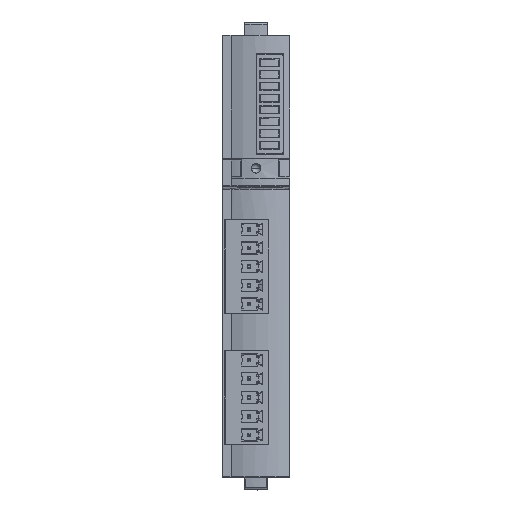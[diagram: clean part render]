
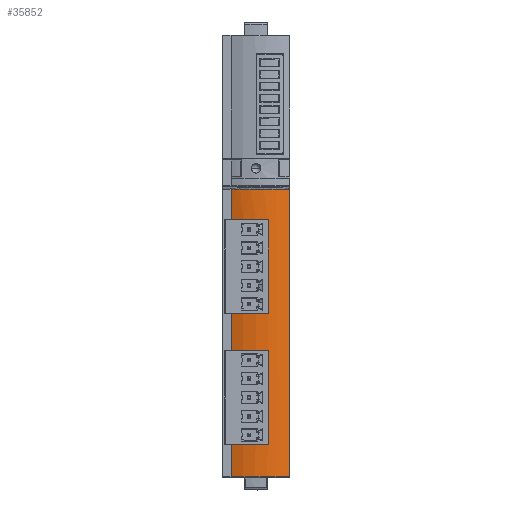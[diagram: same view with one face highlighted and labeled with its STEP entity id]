
A CAD part, top view. The second image highlights one B-rep face of the part: STEP entity #35852.
In plain terms, the highlighted cylindrical face has radius 21.03 mm (diameter 42.06 mm), a partial arc.
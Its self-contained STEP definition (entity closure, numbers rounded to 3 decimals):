
#4720=CARTESIAN_POINT('',(3.303,-68.513,53.684));
#4721=CARTESIAN_POINT('',(1.592,-68.511,53.865));
#4722=CARTESIAN_POINT('',(-1.772,-68.512,
53.801));
#4723=CARTESIAN_POINT('',(-5.03,-68.519,
52.96));
#4724=CARTESIAN_POINT('',(-6.63,-68.525,
52.328));
#4740=CARTESIAN_POINT('',(-6.63,-68.525,
52.328));
#4742=DIRECTION('',(0.,-1.,0.));
#4743=VECTOR('',#4742,8.775);
#4744=CARTESIAN_POINT('',(-6.63,-68.525,
52.328));
#4745=LINE('',#4744,#4743);
#4770=DIRECTION('',(0.,1.,0.));
#4771=VECTOR('',#4770,10.071);
#4772=CARTESIAN_POINT('',(-6.63,-43.095,
52.328));
#4773=LINE('',#4772,#4771);
#4802=DIRECTION('',(0.,-1.,0.));
#4803=VECTOR('',#4802,77.985);
#4804=CARTESIAN_POINT('',(9.076,0.685,52.229));
#4805=LINE('',#4804,#4803);
#4810=CARTESIAN_POINT('',(3.303,-33.013,53.684));
#4811=CARTESIAN_POINT('',(1.592,-33.011,53.865));
#4812=CARTESIAN_POINT('',(-1.772,-33.012,
53.801));
#4813=CARTESIAN_POINT('',(-5.03,-33.019,
52.96));
#4814=CARTESIAN_POINT('',(-6.63,-33.025,
52.328));
#4820=CARTESIAN_POINT('',(-6.63,-7.595,
52.328));
#4821=CARTESIAN_POINT('',(-5.03,-7.601,
52.96));
#4822=CARTESIAN_POINT('',(-1.772,-7.608,
53.801));
#4823=CARTESIAN_POINT('',(1.592,-7.609,53.865));
#4824=CARTESIAN_POINT('',(3.303,-7.607,53.684));
#4834=DIRECTION('',(0.,1.,0.));
#4835=VECTOR('',#4834,8.231);
#4836=CARTESIAN_POINT('',(-6.63,-7.595,
52.328));
#4837=LINE('',#4836,#4835);
#4901=CARTESIAN_POINT('',(8.817,0.635,52.333));
#4902=CARTESIAN_POINT('',(8.549,0.638,52.439));
#4903=CARTESIAN_POINT('',(7.962,0.644,52.658));
#4904=CARTESIAN_POINT('',(6.908,0.653,52.993));
#4905=CARTESIAN_POINT('',(5.719,0.661,53.3));
#4906=CARTESIAN_POINT('',(4.419,0.668,53.551));
#4907=CARTESIAN_POINT('',(3.04,0.673,53.726));
#4908=CARTESIAN_POINT('',(1.617,0.675,53.81));
#4909=CARTESIAN_POINT('',(0.186,0.675,
53.796));
#4910=CARTESIAN_POINT('',(-1.217,0.672,
53.687));
#4911=CARTESIAN_POINT('',(-2.557,0.667,
53.494));
#4912=CARTESIAN_POINT('',(-3.8,0.66,
53.233));
#4913=CARTESIAN_POINT('',(-4.915,0.651,
52.931));
#4914=CARTESIAN_POINT('',(-5.881,0.643,
52.615));
#4915=CARTESIAN_POINT('',(-6.399,0.638,
52.419));
#4916=CARTESIAN_POINT('',(-6.63,0.635,
52.328));
#17700=CARTESIAN_POINT('',(1.1,-77.3,32.77));
#17701=DIRECTION('',(0.,-1.,0.));
#17702=DIRECTION('',(0.379,0.,0.925));
#17703=AXIS2_PLACEMENT_3D('',#17700,#17701,#17702);
#17731=CARTESIAN_POINT('',(-6.63,-77.3,52.328));
#17925=CARTESIAN_POINT('',(9.076,0.685,
52.229));
#17951=CARTESIAN_POINT('',(9.076,0.685,
52.229));
#17952=CARTESIAN_POINT('',(9.034,0.668,
52.246));
#17953=CARTESIAN_POINT('',(8.95,0.643,
52.28));
#17954=CARTESIAN_POINT('',(8.862,0.635,
52.315));
#17955=CARTESIAN_POINT('',(8.817,0.635,
52.333));
#18136=DIRECTION('',(0.,-1.,0.));
#18137=VECTOR('',#18136,25.406);
#18138=CARTESIAN_POINT('',(3.303,-7.607,
53.684));
#18139=LINE('',#18138,#18137);
#19920=DIRECTION('',(0.,-1.,0.));
#19921=VECTOR('',#19920,25.406);
#19922=CARTESIAN_POINT('',(3.303,-43.107,
53.684));
#19923=LINE('',#19922,#19921);
#19928=CARTESIAN_POINT('',(-6.63,-43.095,
52.328));
#19929=CARTESIAN_POINT('',(-5.03,-43.101,
52.96));
#19930=CARTESIAN_POINT('',(-1.772,-43.108,
53.801));
#19931=CARTESIAN_POINT('',(1.592,-43.109,
53.865));
#19932=CARTESIAN_POINT('',(3.303,-43.107,
53.684));
#23761=CARTESIAN_POINT('',(3.303,-43.107,
53.684));
#23762=CARTESIAN_POINT('',(3.303,-68.513,
53.684));
#23763=VERTEX_POINT('',#23761);
#23764=VERTEX_POINT('',#23762);
#23766=CARTESIAN_POINT('',(3.303,-7.607,
53.684));
#23768=VERTEX_POINT('',#23766);
#23770=CARTESIAN_POINT('',(3.303,-33.013,
53.684));
#23772=VERTEX_POINT('',#23770);
#24628=CARTESIAN_POINT('',(-6.63,-43.095,
52.328));
#24629=CARTESIAN_POINT('',(-6.63,-33.025,
52.328));
#24630=VERTEX_POINT('',#24628);
#24631=VERTEX_POINT('',#24629);
#24636=CARTESIAN_POINT('',(-6.63,-7.595,
52.328));
#24637=CARTESIAN_POINT('',(-6.63,0.635,
52.328));
#24638=VERTEX_POINT('',#24636);
#24639=VERTEX_POINT('',#24637);
#24646=VERTEX_POINT('',#17731);
#24650=VERTEX_POINT('',#4740);
#24651=CARTESIAN_POINT('',(9.076,-77.3,52.229));
#24652=VERTEX_POINT('',#24651);
#26904=VERTEX_POINT('',#17925);
#26906=VERTEX_POINT('',#17955);
#35822=CARTESIAN_POINT('',(1.1,-77.5,32.77));
#35823=DIRECTION('',(0.,-1.,0.));
#35824=DIRECTION('',(1.,0.,0.));
#35825=AXIS2_PLACEMENT_3D('',#35822,#35823,#35824);
#35826=CYLINDRICAL_SURFACE('',#35825,21.03);
#35827=ORIENTED_EDGE('',*,*,#35808,.T.);
#35829=ORIENTED_EDGE('',*,*,#35828,.F.);
#35831=ORIENTED_EDGE('',*,*,#35830,.F.);
#35833=ORIENTED_EDGE('',*,*,#35832,.F.);
#35835=ORIENTED_EDGE('',*,*,#35834,.T.);
#35837=ORIENTED_EDGE('',*,*,#35836,.F.);
#35839=ORIENTED_EDGE('',*,*,#35838,.F.);
#35841=ORIENTED_EDGE('',*,*,#35840,.T.);
#35843=ORIENTED_EDGE('',*,*,#35842,.T.);
#35844=ORIENTED_EDGE('',*,*,#35766,.F.);
#35845=ORIENTED_EDGE('',*,*,#35750,.F.);
#35847=ORIENTED_EDGE('',*,*,#35846,.F.);
#35849=ORIENTED_EDGE('',*,*,#35848,.F.);
#35850=EDGE_LOOP('',(#35827,#35829,#35831,#35833,#35835,#35837,#35839,#35841,
#35843,#35844,#35845,#35847,#35849));
#35851=FACE_OUTER_BOUND('',#35850,.F.);
#35852=ADVANCED_FACE('',(#35851),#35826,.T.);
#4725=B_SPLINE_CURVE_WITH_KNOTS('',3,(#4720,#4721,#4722,#4723,#4724),
.UNSPECIFIED.,.F.,.F.,(4,1,4),(0.,0.5,1.),.UNSPECIFIED.);
#4815=B_SPLINE_CURVE_WITH_KNOTS('',3,(#4810,#4811,#4812,#4813,#4814),
.UNSPECIFIED.,.F.,.F.,(4,1,4),(0.,0.5,1.),.UNSPECIFIED.);
#4825=B_SPLINE_CURVE_WITH_KNOTS('',3,(#4820,#4821,#4822,#4823,#4824),
.UNSPECIFIED.,.F.,.F.,(4,1,4),(0.,0.5,1.),.UNSPECIFIED.);
#4917=B_SPLINE_CURVE_WITH_KNOTS('',3,(#4901,#4902,#4903,#4904,#4905,#4906,#4907,
#4908,#4909,#4910,#4911,#4912,#4913,#4914,#4915,#4916),.UNSPECIFIED.,.F.,.F.,(4,
1,1,1,1,1,1,1,1,1,1,1,1,4),(0.,0.077,0.154,
0.231,0.308,0.385,0.462,
0.538,0.615,0.692,0.769,
0.846,0.923,1.),.UNSPECIFIED.);
#17704=CIRCLE('',#17703,21.03);
#17956=B_SPLINE_CURVE_WITH_KNOTS('',3,(#17951,#17952,#17953,#17954,#17955),
.UNSPECIFIED.,.F.,.F.,(4,1,4),(0.,0.5,1.),.UNSPECIFIED.);
#19933=B_SPLINE_CURVE_WITH_KNOTS('',3,(#19928,#19929,#19930,#19931,#19932),
.UNSPECIFIED.,.F.,.F.,(4,1,4),(0.,0.5,1.),.UNSPECIFIED.);
#35750=EDGE_CURVE('',#23764,#24650,#4725,.T.);
#35766=EDGE_CURVE('',#24650,#24646,#4745,.T.);
#35808=EDGE_CURVE('',#24630,#24631,#4773,.T.);
#35828=EDGE_CURVE('',#23772,#24631,#4815,.T.);
#35830=EDGE_CURVE('',#23768,#23772,#18139,.T.);
#35832=EDGE_CURVE('',#24638,#23768,#4825,.T.);
#35834=EDGE_CURVE('',#24638,#24639,#4837,.T.);
#35836=EDGE_CURVE('',#26906,#24639,#4917,.T.);
#35838=EDGE_CURVE('',#26904,#26906,#17956,.T.);
#35840=EDGE_CURVE('',#26904,#24652,#4805,.T.);
#35842=EDGE_CURVE('',#24652,#24646,#17704,.T.);
#35846=EDGE_CURVE('',#23763,#23764,#19923,.T.);
#35848=EDGE_CURVE('',#24630,#23763,#19933,.T.);
